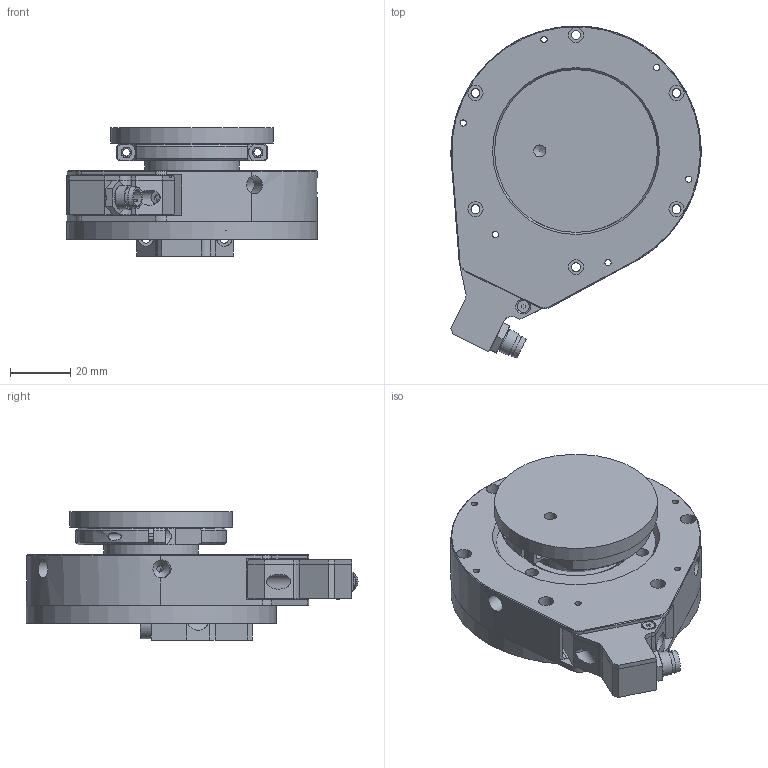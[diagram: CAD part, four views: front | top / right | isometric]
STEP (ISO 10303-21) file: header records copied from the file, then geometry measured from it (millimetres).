
FILE_DESCRIPTION( ( 'Unknown' ), '1' );
FILE_NAME( 'G:/DRAWINGS/99-/EXPORT/x_t-stp-jpg/99-0010a.stp', 'Unknown', ( 'Unknown' ), ( 'Unknown' ), 'XStep 1.0', 'Unknown', ' ' );
FILE_SCHEMA( ( 'automotive_design' ) );
Length unit declared in the file: millimetre
Products named in the file (12): Assem1; 90510-C1004; 48153; 48009; 91506-B1047; 93505-P1013; 93505-C1082; 90510-B1006; 90510-C1002A; 90510-C1008; 95524-D1052
Bounding box: 83 x 110.11 x 42.5 mm (x, y, z)
Volume: 221962.6 mm3; surface area: 115887.8 mm2
Topology: 24 solids, 24 shells, 766 faces, 1955 edges, 1328 vertices
Faces by surface type: cylinder 348, plane 315, cone 101, torus 2
Full cylindrical faces by diameter (mm): 0.6 x6, 1.02 x4, 1.6 x8, 2 x3, 2.05 x24, 2.25 x4, 2.495 x4, 2.5 x15, 2.54 x8, 3 x40, 3.5 x4, 3.925 x8, 3.967 x2, 3.986 x2, 4 x3, 4.035 x2, 4.2 x10, 4.5 x25, 5 x28, 5.16 x2, 5.7 x2, 6 x8, 6.992 x4, 7 x4, 7.97 x4, 8 x4, 8.435 x2, 8.65 x2, 10 x2, 10.005 x2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
Entity records: 10970 total; most frequent: CARTESIAN_POINT 2504, DIRECTION 1765, ORIENTED_EDGE 1354, AXIS2_PLACEMENT_3D 746, EDGE_LOOP 721, EDGE_CURVE 677, VERTEX_POINT 557, FACE_OUTER_BOUND 507
